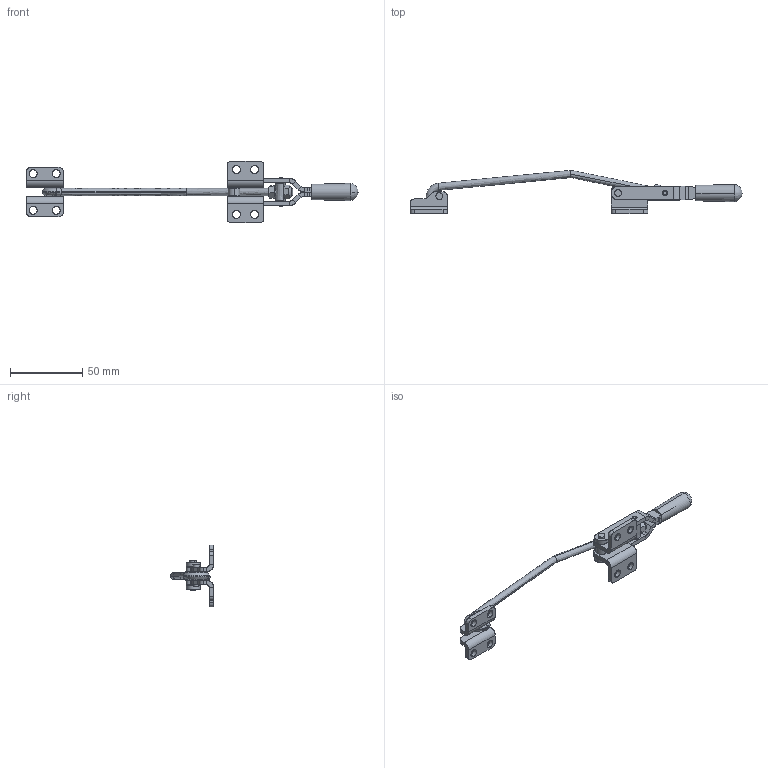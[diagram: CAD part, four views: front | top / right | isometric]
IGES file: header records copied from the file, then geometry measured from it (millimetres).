
Start section: SolidWorks IGES file using analytic representation for surfaces
Global section: file name: C:\Projetos\Grampos\KF-033\KF-033 L\KF-033 L.IGS; native system: SolidWorks 2011; preprocessor: SolidWorks 2011; author: Usuario; date: 110720.094600; units: millimetre
Bounding box: 230.29 x 29.99 x 42.9 mm (x, y, z)
Surface area: 17487.3 mm2 (no closed solid volume)
Topology: 0 solids, 0 shells, 282 faces, 3978 edges, 3976 vertices
Faces by surface type: revolution 155, bspline 127
